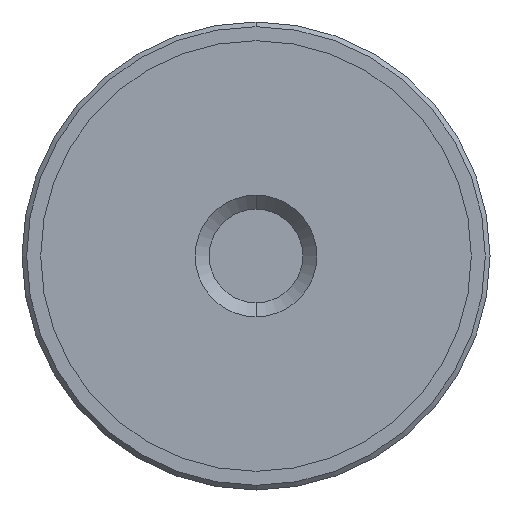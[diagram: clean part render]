
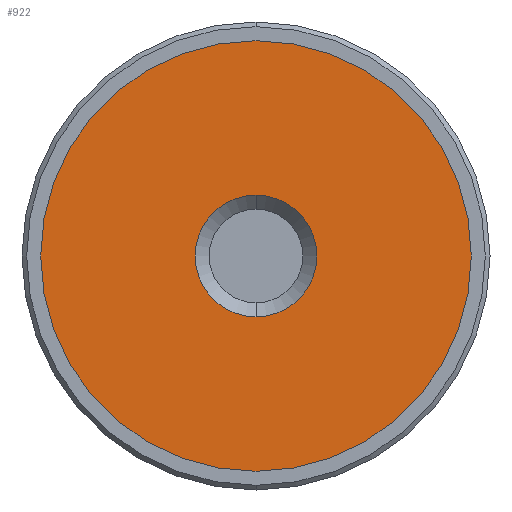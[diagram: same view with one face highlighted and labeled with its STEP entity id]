
A CAD part, front view. The second image highlights one B-rep face of the part: STEP entity #922.
In plain terms, the highlighted planar face has unit normal (0, -1, 0).
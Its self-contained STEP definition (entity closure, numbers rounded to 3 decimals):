
#8 = CIRCLE ( 'NONE', #1055, 23. ) ;
#129 = AXIS2_PLACEMENT_3D ( 'NONE', #1106, #809, #235 ) ;
#156 = PLANE ( 'NONE',  #371 ) ;
#214 = CARTESIAN_POINT ( 'NONE',  ( 0., -1.5, 0. ) ) ;
#231 = CARTESIAN_POINT ( 'NONE',  ( 0., -1.5, -23. ) ) ;
#235 = DIRECTION ( 'NONE',  ( 0., 0., 1. ) ) ;
#257 = CARTESIAN_POINT ( 'NONE',  ( 0., -1.5, 23. ) ) ;
#315 = CARTESIAN_POINT ( 'NONE',  ( 0., -1.5, 0. ) ) ;
#339 = FACE_OUTER_BOUND ( 'NONE', #742, .T. ) ;
#371 = AXIS2_PLACEMENT_3D ( 'NONE', #518, #524, #1237 ) ;
#478 = ORIENTED_EDGE ( 'NONE', *, *, #763, .T. ) ;
#518 = CARTESIAN_POINT ( 'NONE',  ( 0., -1.5, 23. ) ) ;
#524 = DIRECTION ( 'NONE',  ( 0., -1., 0. ) ) ;
#602 = EDGE_LOOP ( 'NONE', ( #478, #1087 ) ) ;
#623 = EDGE_CURVE ( 'NONE', #1211, #635, #876, .T. ) ;
#635 = VERTEX_POINT ( 'NONE', #231 ) ;
#637 = VERTEX_POINT ( 'NONE', #1217 ) ;
#676 = FACE_BOUND ( 'NONE', #602, .T. ) ;
#688 = DIRECTION ( 'NONE',  ( 0., 0., -1. ) ) ;
#704 = DIRECTION ( 'NONE',  ( 0., 1., 0. ) ) ;
#717 = EDGE_CURVE ( 'NONE', #637, #1017, #1016, .T. ) ;
#721 = CARTESIAN_POINT ( 'NONE',  ( 0., -1.5, -6.5 ) ) ;
#742 = EDGE_LOOP ( 'NONE', ( #774, #1249 ) ) ;
#763 = EDGE_CURVE ( 'NONE', #1017, #637, #836, .T. ) ;
#774 = ORIENTED_EDGE ( 'NONE', *, *, #623, .F. ) ;
#797 = DIRECTION ( 'NONE',  ( 0., 1., 0. ) ) ;
#809 = DIRECTION ( 'NONE',  ( 0., 1., 0. ) ) ;
#819 = DIRECTION ( 'NONE',  ( 0., 1., 0. ) ) ;
#836 = CIRCLE ( 'NONE', #1169, 6.5 ) ;
#857 = EDGE_CURVE ( 'NONE', #635, #1211, #8, .T. ) ;
#876 = CIRCLE ( 'NONE', #129, 23. ) ;
#922 = ADVANCED_FACE ( 'NONE', ( #676, #339 ), #156, .T. ) ;
#1013 = DIRECTION ( 'NONE',  ( 0., 0., 1. ) ) ;
#1016 = CIRCLE ( 'NONE', #1178, 6.5 ) ;
#1017 = VERTEX_POINT ( 'NONE', #721 ) ;
#1055 = AXIS2_PLACEMENT_3D ( 'NONE', #1219, #819, #1013 ) ;
#1087 = ORIENTED_EDGE ( 'NONE', *, *, #717, .T. ) ;
#1098 = DIRECTION ( 'NONE',  ( 0., 0., -1. ) ) ;
#1106 = CARTESIAN_POINT ( 'NONE',  ( 0., -1.5, 0. ) ) ;
#1169 = AXIS2_PLACEMENT_3D ( 'NONE', #214, #704, #1098 ) ;
#1178 = AXIS2_PLACEMENT_3D ( 'NONE', #315, #797, #688 ) ;
#1211 = VERTEX_POINT ( 'NONE', #257 ) ;
#1217 = CARTESIAN_POINT ( 'NONE',  ( 0., -1.5, 6.5 ) ) ;
#1219 = CARTESIAN_POINT ( 'NONE',  ( 0., -1.5, 0. ) ) ;
#1237 = DIRECTION ( 'NONE',  ( 0., 0., -1. ) ) ;
#1249 = ORIENTED_EDGE ( 'NONE', *, *, #857, .F. ) ;
